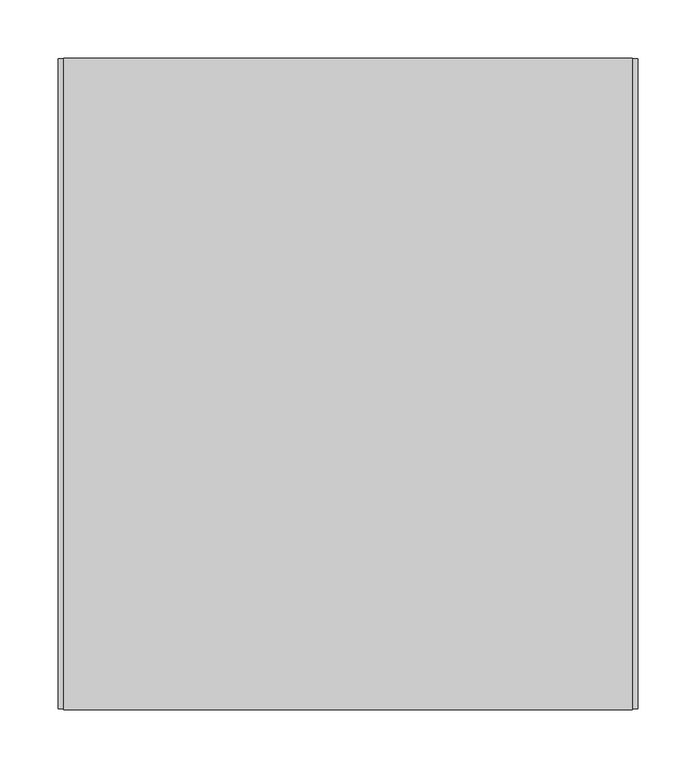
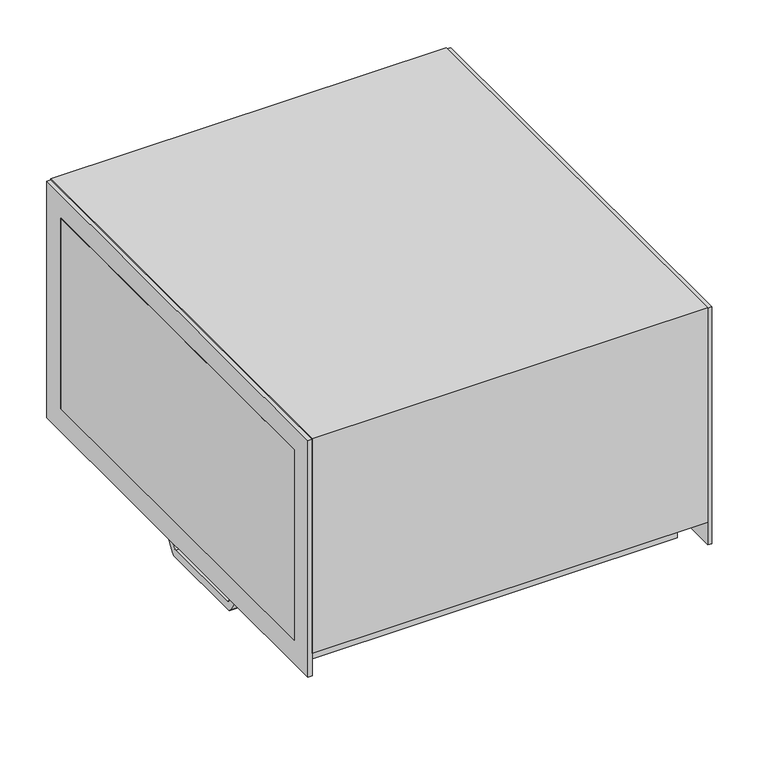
"""IFC4 building model written with IfcOpenShell, lengths in millimetres: unitary equipment geometry, VE-Wentylator-ParaForma-Harmann-DRBI_EC-Nawiewny : 050/25/1750EC."""

from ifc_helpers import new_model, si_unit, point, frame, frame_2d, origin, place, context, project, spatial, polyline, circle_curve, trimmed, segment, composite_curve, outline, extrude, faceted_brep, source, transform, mapped, element, save


def unitary_equipment_6650e67d(model_context):
    return source(origin(), model_context, "Body", "SolidModel", [
        faceted_brep([(-237.5, -245.7, -160.3), (-237.5, -245.7, -125.0), (-237.5, 245.7, -125.0), (-237.5, 245.7, -160.3), (227.5, -245.7, -160.3), (227.5, 245.7, -160.3), (227.5, 245.7, -125.0), (227.5, -245.7, -125.0), (-245.0, -280.8, -125.0), (-245.0, -280.8, 155.8), (-245.0, 280.8, 155.8), (-245.0, 280.8, -125.0), (-245.0, 250.0, -125.0), (-245.0, 250.0, 125.0), (-245.0, -250.0, 125.0), (-245.0, -250.0, -125.0), (245.0, 280.8, -125.0), (245.0, 280.8, 155.8), (245.0, -280.8, 155.8), (245.0, -280.8, -125.0), (245.0, -250.0, -125.0), (245.0, -250.0, 125.0), (245.0, 250.0, 125.0), (245.0, 250.0, -125.0), (-250.0, -250.0, -125.0), (-250.0, 250.0, -125.0), (250.0, 250.0, -125.0), (250.0, -250.0, -125.0), (-250.0, -250.0, 125.0), (-250.0, 250.0, 125.0), (250.0, 250.0, 125.0), (250.0, -250.0, 125.0)], [[[0, 1, 2, 3]], [[4, 5, 6, 7]], [[1, 0, 4, 7]], [[3, 2, 6, 5]], [[0, 3, 5, 4]], [[8, 9, 10, 11, 12, 13, 14, 15]], [[16, 17, 18, 19, 20, 21, 22, 23]], [[9, 8, 19, 18]], [[10, 9, 18, 17]], [[11, 10, 17, 16]], [[19, 8, 15, 24, 25, 12, 11, 16, 23, 26, 27, 20], [2, 1, 7, 6]], [[24, 28, 29, 25]], [[28, 24, 15, 14]], [[29, 28, 14, 13]], [[25, 29, 13, 12]], [[27, 26, 30, 31]], [[27, 31, 21, 20]], [[31, 30, 22, 21]], [[30, 26, 23, 22]]]),
        extrude(outline(polyline([(-280.0, -155.0), (-280.0, 155.0), (280.0, 155.0), (280.0, -155.0), (-280.0, -155.0)]), holes=[polyline([(-250.0, -125.0), (250.0, -125.0), (250.0, 125.0), (-250.0, 125.0), (-250.0, -125.0)])]), frame((245.0, 0.0, 0.0), z_axis=(1.0, 0.0, 0.0), x_axis=(0.0, 1.0, 0.0)), (0.0, 0.0, 1.0), 5.0),
        extrude(outline(polyline([(-280.0, -155.0), (-280.0, 155.0), (280.0, 155.0), (280.0, -155.0), (-280.0, -155.0)]), holes=[polyline([(-250.0, -125.0), (250.0, -125.0), (250.0, 125.0), (-250.0, 125.0), (-250.0, -125.0)])]), frame((-250.0, 0.0, 0.0), z_axis=(1.0, 0.0, 0.0), x_axis=(0.0, 1.0, 0.0)), (0.0, 0.0, 1.0), 5.0),
        extrude(outline(composite_curve([segment(polyline([(-85.0, -173.3), (-85.0, -160.3), (-60.0, -160.3), (-60.0, -197.3)]), True, "CONTINUOUS"), segment(trimmed(circle_curve(frame_2d((-55.0, -197.3)), 5.0), [point((-60.0, -197.3))], [point((-55.0, -202.3))], True, "CARTESIAN"), True, "CONTINUOUS"), segment(polyline([(-55.0, -202.3), (55.0, -202.3)]), True, "CONTINUOUS"), segment(trimmed(circle_curve(frame_2d((55.0, -197.3)), 5.0), [point((55.0, -202.3))], [point((60.0, -197.3))], True, "CARTESIAN"), True, "CONTINUOUS"), segment(polyline([(60.0, -197.3), (60.0, -160.3), (85.0, -160.3), (85.0, -173.3), (61.4754291, -209.9983306)]), True, "CONTINUOUS"), segment(trimmed(circle_curve(frame_2d((57.2660334, -207.3)), 5.0), [point((61.4754291, -209.9983306))], [point((57.2660334, -212.3))], False, "CARTESIAN"), True, "CONTINUOUS"), segment(polyline([(57.2660334, -212.3), (-57.2660334, -212.3)]), True, "CONTINUOUS"), segment(trimmed(circle_curve(frame_2d((-57.2660334, -207.3)), 5.0), [point((-57.2660334, -212.3))], [point((-61.4754291, -209.9983306))], False, "CARTESIAN"), True, "CONTINUOUS"), segment(polyline([(-61.4754291, -209.9983306), (-85.0, -173.3)]), True, "CONTINUOUS")], self_intersect=False)), frame((-220.3, 0.0, 0.0), z_axis=(1.0, 0.0, 0.0), x_axis=(0.0, 1.0, 0.0)), (0.0, 0.0, 1.0), 28.0),
        extrude(outline(composite_curve([segment(polyline([(215.3, -27.5), (130.3, -27.5)]), True, "CONTINUOUS"), segment(trimmed(circle_curve(frame_2d((130.3, -22.5)), 5.0), [point((130.3, -27.5))], [point((125.3, -22.5))], False, "CARTESIAN"), True, "CONTINUOUS"), segment(polyline([(125.3, -22.5), (125.3, 77.5)]), True, "CONTINUOUS"), segment(trimmed(circle_curve(frame_2d((130.3, 77.5)), 5.0), [point((125.3, 77.5))], [point((130.3, 82.5))], False, "CARTESIAN"), True, "CONTINUOUS"), segment(polyline([(130.3, 82.5), (215.3, 82.5)]), True, "CONTINUOUS"), segment(trimmed(circle_curve(frame_2d((215.3, 77.5)), 5.0), [point((215.3, 82.5))], [point((220.3, 77.5))], False, "CARTESIAN"), True, "CONTINUOUS"), segment(polyline([(220.3, 77.5), (220.3, -22.5)]), True, "CONTINUOUS"), segment(trimmed(circle_curve(frame_2d((215.3, -22.5)), 5.0), [point((220.3, -22.5))], [point((215.3, -27.5))], False, "CARTESIAN"), True, "CONTINUOUS")], self_intersect=False)), frame((0.0, 0.0, -209.8), z_axis=(0.0, 0.0, 1.0), x_axis=(1.0, 0.0, 0.0)), (0.0, 0.0, 1.0), 49.5),
    ])


if __name__ == "__main__":
    model = new_model("IFC4")
    model_context = context("Model", 3, world=origin())
    ifc_project = project(units=[si_unit("LENGTHUNIT", "METRE", prefix="MILLI")], contexts=[model_context])
    site = spatial("IfcSite", under=ifc_project)
    building = spatial("IfcBuilding", under=site)
    placement = place(None, origin())
    unitary_equipment_shape = unitary_equipment_6650e67d(model_context)
    element("IfcUnitaryEquipment", 1, ObjectType="VE-Wentylator-ParaForma-Harmann-DRBI_EC-Nawiewny : 050/25/1750EC", at=placement, inside=building, context=model_context, shape_type="MappedRepresentation", body=[
        mapped(unitary_equipment_shape, transform((0.0, 0.0, 0.0), x_axis=(1.0, 0.0, 0.0), y_axis=(0.0, 1.0, 0.0), z_axis=(0.0, 0.0, 1.0))),
    ])
    save(model, "model.ifc")
